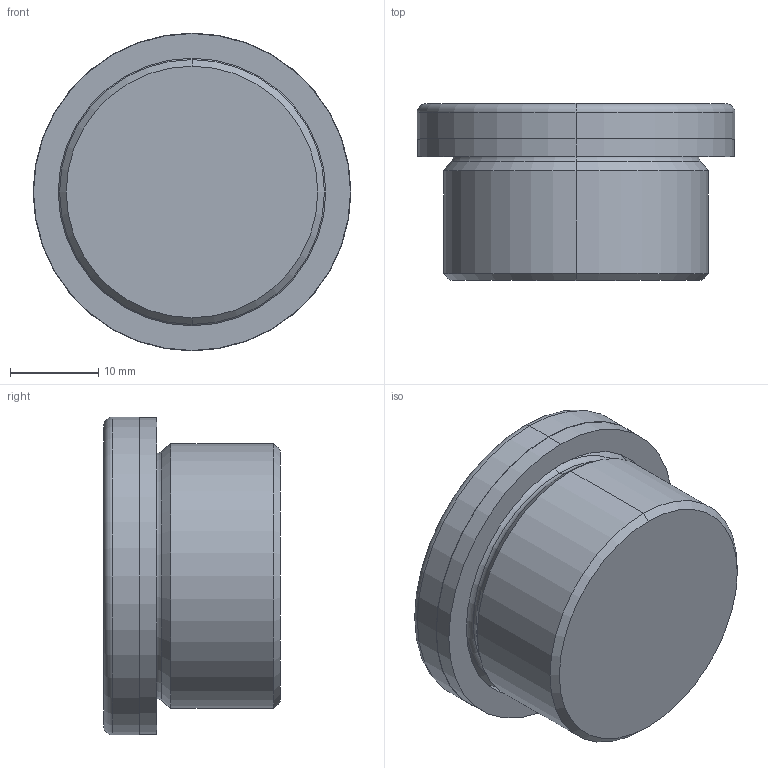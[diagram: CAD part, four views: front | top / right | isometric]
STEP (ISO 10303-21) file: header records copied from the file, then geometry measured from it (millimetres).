
FILE_DESCRIPTION (( 'STEP AP214' ), '1' );
FILE_NAME ('908-ST-M30x1,5-AN.step', '2024-12-19T09:19:18', ( '' ), ( '' ), 'SwSTEP 2.0', 'SolidWorks 2022', '' );
FILE_SCHEMA (( 'AUTOMOTIVE_DESIGN' ));
Length unit declared in the file: millimetre
Products named in the file (1): 908-ST-M30x1,5-AN
Bounding box: 36 x 20 x 36 mm (x, y, z)
Volume: 13436.5 mm3; surface area: 4900.8 mm2
Topology: 1 solids, 1 shells, 31 faces, 64 edges, 38 vertices
Faces by surface type: plane 11, cylinder 8, torus 6, cone 6
Entity records: 929 total; most frequent: DIRECTION 160, CARTESIAN_POINT 134, ORIENTED_EDGE 128, EDGE_CURVE 64, AXIS2_PLACEMENT_3D 64, VERTEX_POINT 38, EDGE_LOOP 34, VECTOR 32
